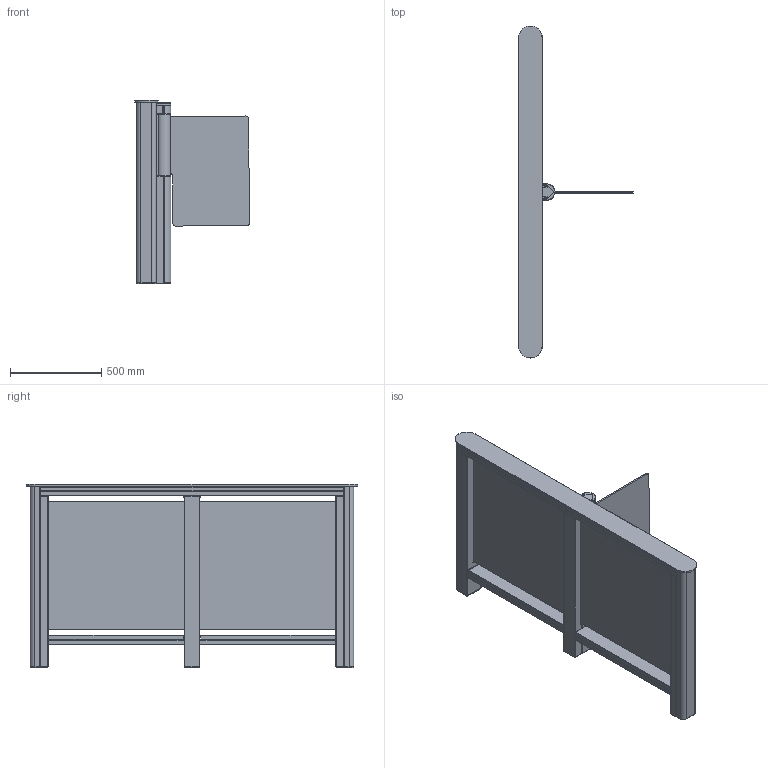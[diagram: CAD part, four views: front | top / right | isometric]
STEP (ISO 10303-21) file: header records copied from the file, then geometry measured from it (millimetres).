
FILE_DESCRIPTION(/* description */ ('Unknown'),/* implementation_level */ '2;1');
FILE_NAME(/* name */ 'ST-01_M_S_900',/* time_stamp */ '2021-12-23T11:31:31+03:00',/* author */ ('Unknown'),/* organization */ ('Unknown'),/* preprocessor_version */ 'ST-DEVELOPER v18.1',/* originating_system */ 'Solid Edge',/* authorisation */ 'Unknown');
FILE_SCHEMA (('CONFIG_CONTROL_DESIGN'));
Products named in the file (113): ST-01_M_S; ST-01.1.006.00 砎魤鍱_oa_0; ST-01.1.002.00 栺鍣罻_oa_1; ST-01.1.002.02 砑僔蠂縺; ST-01.1.005.08 扻豵鵨; ST-01.1.031.00 沓劌錪 瀔魤鍱趌oa_2; ST-01.1.036.00 昜闉趌oa_3; BG65x25+PLG52+mufta_oa_4; ST-01.045.00ﾑﾁ ﾊ濱oa_5; ST-01.046.00 ﾊ濱oa_6; ST-01.046.09 Êîæóõ-Ïî óìîë÷àíèþ; ST-01.047.00 扰鍙欙樥燲oa_7; ST-01.760.00 Ïëàòà ýëåêòðîïðèâîäà_oa_8; ST-01.920.00 Êàáåëü ñîåäèíåíèÿ CAN; ST-01.1.004.00捘 昜闉趌oa_9; ST-01.008.00 ﾊ濱oa_10; ST-01.008.05 Êîæóõ; ST-01.008.00 ﾊ濱oa_11; ST-01.900.00 Êàáåëü ñîåäèíåíèÿ  DC; Äæàìïåð MJ-0_13; 淟檍瀖睯貗; ST-01.1.010.00ﾑﾁ ﾊ濱oa_12; ST-01.740.00 Ïëàòà èíäèêàòîðíîé ñòîéêè_oa_13; ST-01.1.010.10 Ñòåêëî-Ïî óìîë÷àíèþ; ST-01.1.011.00 ﾊ濱oa_14; ST-01.1.011.05 署赅; ST-01.1.009.00捘 扻豵鵨_oa_15; ST-01.009.25 Êîæóõ; ST-01.1.009.07 扻豵鵨; ST-01.013.00 扻豂塺oa_16; ST-01.1.016.00 扻豂塺oa_17; ST-01.1.015.00 扻豂塺oa_18; ST-01.1.015.05 Êîðîá; Øïèëüêè ñáîðêà_oa_19; Øïèëüêè ñáîðêà_oa_20; Øïèëüêè ñáîðêà 2_oa_21; Øïèëüêè ñáîðêà 2_oa_22; Øïèëüêè ñáîðêà_oa_23; Øïèëüêè ñáîðêà_oa_24; Øïèëüêè ñáîðêà 2_oa_25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
Assembly tree (137 placements, depth 5):
  ST-01_M_S
    ST-01.1.006.00 砎魤鍱_oa_0
      ST-01.1.002.00 栺鍣罻_oa_1
        ST-01.1.002.02 砑僔蠂縺
      ST-01.1.005.08 扻豵鵨
      ST-01.1.031.00 沓劌錪 瀔魤鍱趌oa_2
        ST-01.1.036.00 昜闉趌oa_3
        BG65x25+PLG52+mufta_oa_4
      ST-01.045.00ﾑﾁ ﾊ濱oa_5
        ST-01.046.00 ﾊ濱oa_6
          ST-01.046.09 Êîæóõ-Ïî óìîë÷àíèþ
        ST-01.047.00 扰鍙欙樥燲oa_7
      ST-01.760.00 Ïëàòà ýëåêòðîïðèâîäà_oa_8
      ST-01.920.00 Êàáåëü ñîåäèíåíèÿ CAN
      ST-01.1.004.00捘 昜闉趌oa_9
      ST-01.008.00 ﾊ濱oa_10
        ST-01.008.05 Êîæóõ
      ST-01.008.00 ﾊ濱oa_11
        ST-01.008.05 Êîæóõ
      ST-01.900.00 Êàáåëü ñîåäèíåíèÿ  DC
      Äæàìïåð MJ-0_13
      淟檍瀖睯貗  x3
    ST-01.1.010.00ﾑﾁ ﾊ濱oa_12
      ST-01.740.00 Ïëàòà èíäèêàòîðíîé ñòîéêè_oa_13
      ST-01.1.010.10 Ñòåêëî-Ïî óìîë÷àíèþ
      ST-01.1.011.00 ﾊ濱oa_14
        ST-01.1.011.05 署赅
      ST-01.1.009.00捘 扻豵鵨_oa_15
        ST-01.009.25 Êîæóõ
        ST-01.1.009.07 扻豵鵨
    ST-01.013.00 扻豂塺oa_16
      ST-01.1.016.00 扻豂塺oa_17
        ST-01.1.015.00 扻豂塺oa_18
          ST-01.1.015.05 Êîðîá
          Øïèëüêè ñáîðêà_oa_19
          Øïèëüêè ñáîðêà_oa_20
          Øïèëüêè ñáîðêà 2_oa_21
          Øïèëüêè ñáîðêà 2_oa_22
          Øïèëüêè ñáîðêà_oa_23
          Øïèëüêè ñáîðêà_oa_24
          Øïèëüêè ñáîðêà 2_oa_25
          Øïèëüêè ñáîðêà 2_oa_26
          Øïèëüêà âèðò
        ST-01.016.05 Êîðîá--01
      ST-01.017.00 Ïëàñòèíà â ñáîðå_oa_27
      ST-01.706.00 Ïëàòà ïðèåìíèêîâ_oa_28
      ST-01.706.00 Ïëàòà ïðèåìíèêîâ_oa_29
      ST-01.716.00 Ïëàòà ïðèåìíèêîâ_oa_30
      ST-01.716.00 Ïëàòà ïðèåìíèêîâ_oa_31
      ST-01.050.15 Ïëàñòèíà (ñâåòîôèëüòð)-795  x2
      Ëåíòà ìîíòàíæíàÿ äâóñòîðîííÿÿ 9473PC VHB 19 ìì_âèðò
      ST-01.014.00 扻豂塺oa_32
      ST-01.910.00 忺摎錪 膰豂摳 CAN_睯貗  x4
      ST-01.910.00-01 忺摎錪 膰豂摳 CAN_睯貗
      ST-01.910.00-02 忺摎錪 膰豂摳 CAN_睯貗  x3
      ST-01.931.00 忺摎錪 襜贀槻鍣 鴈儰罻灕醂睯貗
      ST-01.932.00 Êàáåëü èíäèêàöèè ñòîéêè_âèðò
      ST-01.940.00 Êàáåëü èíäèêàöèè ïðîõîäà_âèðò
      淟檍瀖睯貗  x5
      ST-01.050.15 Ïëàñòèíà (ñâåòîôèëüòð)-1662
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Bounding box: 630.19 x 1820 x 1004.7 mm (x, y, z)
Volume: 18522278.9 mm3; surface area: 9366403.4 mm2
Topology: 39 solids, 39 shells, 2762 faces, 7242 edges, 4529 vertices
Faces by surface type: plane 1972, cylinder 650, bspline 112, cone 28
Full cylindrical faces by diameter (mm): 3.3 x46, 3.5 x8, 4 x4, 5 x104, 5.5 x6, 6 x4, 7 x17, 11 x15, 12 x13, 13.5 x2, 16 x4, 87 x1
Entity records: 70928 total; most frequent: CARTESIAN_POINT 15021, ORIENTED_EDGE 11012, DIRECTION 10684, EDGE_CURVE 5506, LINE 4260, VECTOR 4260, VERTEX_POINT 3558, AXIS2_PLACEMENT_3D 3212
